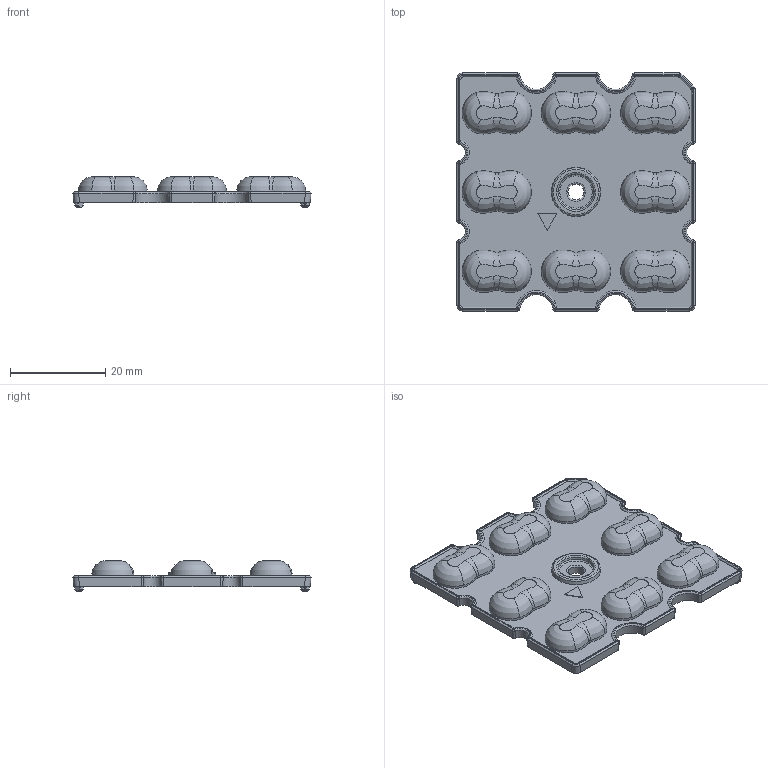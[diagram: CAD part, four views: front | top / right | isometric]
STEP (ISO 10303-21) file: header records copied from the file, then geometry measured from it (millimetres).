
FILE_DESCRIPTION(('CAx-IF Rec.Pracs.---Model Styling and Organization---1.2---2011-12-15','CAx-IF Rec.Pracs.---Geometric and Assembly Validation Properties---4.1---2014-06-16','CAx-IF Rec.Pracs.---PMI Polyline Presentation---2.0---2013-05-24'),'2;1');
FILE_NAME('022YS00Y09.stp','2020-09-09T08:46:52+02:00',(''),(''),'STEP Interface 4.3 by CT CoreTechnologie','3D_Evolution4.3 by CT CoreTechnologie','');
FILE_SCHEMA(('AP203_CONFIGURATION_CONTROLLED_3D_DESIGN_OF_MECHANICAL_PARTS_AND_ASSEMBLIES_MIM_LF'));
Length unit declared in the file: millimetre
Products named in the file (1): 022YS00Y09
Bounding box: 49.9 x 49.9 x 6.4 mm (x, y, z)
Volume: 6549.7 mm3; surface area: 6298.9 mm2
Topology: 1 solids, 1 shells, 597 faces, 1449 edges, 905 vertices
Faces by surface type: bspline 357, plane 165, cylinder 75
Entity records: 88247 total; most frequent: CARTESIAN_POINT 52603, PROPERTY_DEFINITION 3050, ORIENTED_EDGE 2894, DIRECTION 2264, SHAPE_REPRESENTATION 1526, SHAPE_DEFINITION_REPRESENTATION 1526, REPRESENTATION 1525, SHAPE_ASPECT 1525
